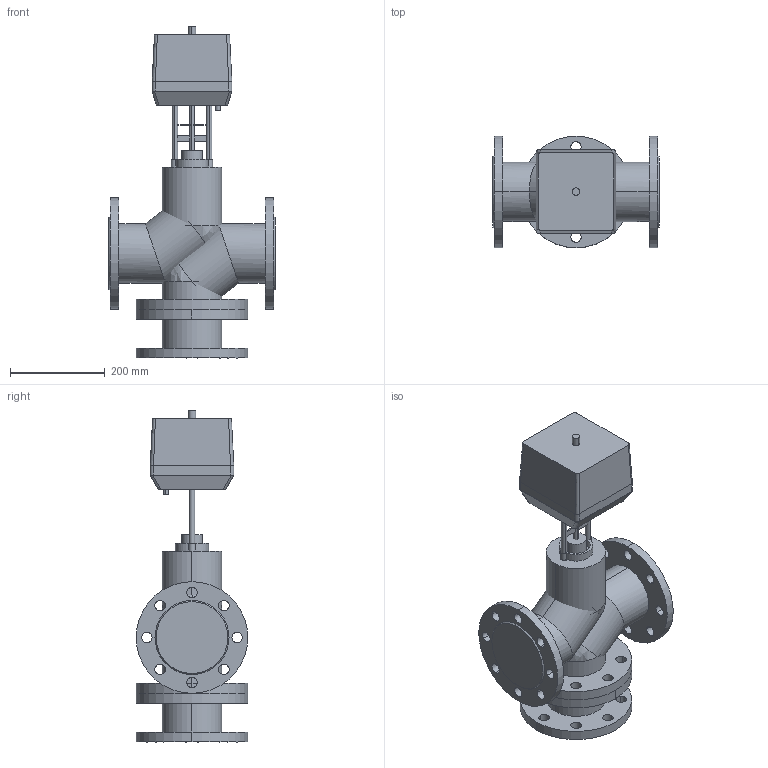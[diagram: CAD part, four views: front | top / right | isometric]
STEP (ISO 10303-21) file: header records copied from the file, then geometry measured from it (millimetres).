
FILE_DESCRIPTION(/* description */ (''),/* implementation_level */ '2;1');
FILE_NAME(/* name */ 'ТРК DN100 PN 2.5 МПа VTM-i 5000H',/* time_stamp */ '2026-07-14T23:21:07+03:00',/* author */ (''),/* organization */ (''),/* preprocessor_version */ 'ST-DEVELOPER v20',/* originating_system */ '',/* authorisation */ '');
FILE_SCHEMA (('AP242_MANAGED_MODEL_BASED_3D_ENGINEERING_MIM_LF { 1 0 10303 442 1 1 4 }'));
Length unit declared in the file: millimetre
Products named in the file (16): TopLevelAssembly; Выдавливание; Модификатор; Модификатор_1; Выдавливание_
1; Выдавливание_
2; Вращение; Выдавливание_
3; Выдавливание_
4; Выдавливание_
5; Выдавливание_
6; Выдавливание_
7; 1600; Переход; Объемная геометрия 
присоединена; Объемная геометрия 
присоединена_1
Assembly tree (15 placements, depth 2):
  TopLevelAssembly
    Выдавливание
    Модификатор
    Модификатор_1
    Выдавливание_
1
    Выдавливание_
2
    Вращение
    Выдавливание_
3
    Выдавливание_
4
    Выдавливание_
5
    Выдавливание_
6
    Выдавливание_
7
    1600
    Переход
    Объемная геометрия 
присоединена
    Объемная геометрия 
присоединена_1
Bounding box: 350 x 235 x 699 mm (x, y, z)
Volume: 16575352.8 mm3; surface area: 1284947.8 mm2
Topology: 23 solids, 23 shells, 233 faces, 555 edges, 366 vertices
Faces by surface type: cylinder 138, plane 79, bspline 12, cone 4
Entity records: 7809 total; most frequent: CARTESIAN_POINT 1457, DIRECTION 1366, ORIENTED_EDGE 1094, AXIS2_PLACEMENT_3D 567, EDGE_CURVE 547, VERTEX_POINT 366, EDGE_LOOP 329, CIRCLE 307
